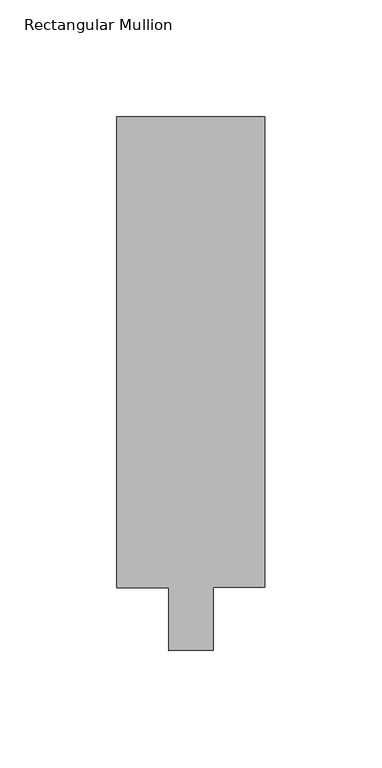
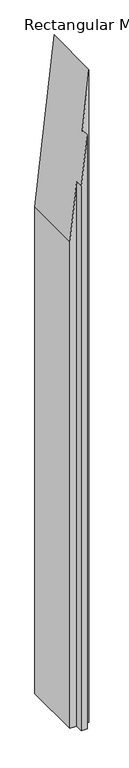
"""IFC4 building model written with IfcOpenShell, lengths in millimetres: member geometry."""

import ifcopenshell
import ifcopenshell.guid

model = None  # the IFC model being written
_history = None  # IfcOwnerHistory: only IFC2X3 demands one
_inside = {}  # id of a spatial element -> (the spatial element, [elements in it])
_under = {}  # id of a project, library or spatial element -> (it, [spatial elements below it])
_declared = {}  # id of a project -> (the project, [libraries it declares])
_typed = {}  # id of a type object -> (the type object, [elements of that type])
_made_of = {}  # id of a material, layer set ... -> (it, [elements and type objects made of it])


def new_model(schema):
    """Start an empty IFC model of exactly this schema.

    Asked for "IFC4X3", IfcOpenShell would pick the latest addendum, in which some entities
    have other attributes; the version numbers below select the first issue.
    IFC2X3 requires an IfcOwnerHistory on every rooted entity: one is made here for all.
    """
    global model, _history
    if schema == "IFC4X3":
        model = ifcopenshell.file(schema_version=(4, 3, 0, 0))
    else:
        model = ifcopenshell.file(schema=schema)
    _inside.clear()
    _under.clear()
    _declared.clear()
    _typed.clear()
    _made_of.clear()
    _history = None
    if model.schema == "IFC2X3":
        org = make("IfcOrganization", Name="unknown")
        user = make(
            "IfcPersonAndOrganization",
            ThePerson=make("IfcPerson", FamilyName="unknown"),
            TheOrganization=org,
        )
        app = make(
            "IfcApplication",
            ApplicationDeveloper=org,
            Version="unknown",
            ApplicationFullName="unknown",
            ApplicationIdentifier="unknown",
        )
        _history = make(
            "IfcOwnerHistory",
            OwningUser=user,
            OwningApplication=app,
            ChangeAction="ADDED",
            CreationDate=0,
        )
    return model


def make(cls, **values):
    """One entity of the class cls with the attributes given. An attribute that is None is left unset."""
    return model.create_entity(
        cls, **{name: value for name, value in values.items() if value is not None}
    )


def rooted(cls, **values):
    """An entity with a GlobalId (a new one), such as an element, a storey or a relation."""
    return make(cls, GlobalId=ifcopenshell.guid.new(), OwnerHistory=_history, **values)


def si_unit(unit_type, name, prefix=None):
    """IfcSIUnit, for example si_unit("LENGTHUNIT", "METRE", prefix="MILLI")."""
    return make("IfcSIUnit", UnitType=unit_type, Prefix=prefix, Name=name)


def assignment(units):
    """IfcUnitAssignment: the units of a project."""
    return None if units is None else make("IfcUnitAssignment", Units=units)


def point(xyz):
    """IfcCartesianPoint."""
    return None if xyz is None else make("IfcCartesianPoint", Coordinates=xyz)


def direction(xyz):
    """IfcDirection."""
    return None if xyz is None else make("IfcDirection", DirectionRatios=xyz)


def frame(location, z_axis=None, x_axis=None):
    """IfcAxis2Placement3D, a coordinate frame: its origin and axes. An axis left out is left unset."""
    return make(
        "IfcAxis2Placement3D",
        Location=point(location),
        Axis=direction(z_axis),
        RefDirection=direction(x_axis),
    )


def origin():
    """The frame at (0, 0, 0) with its axes left unset."""
    return frame((0.0, 0.0, 0.0))


def place(relative_to, where):
    """IfcLocalPlacement: puts the frame where relative to a parent placement (None: the world)."""
    return make(
        "IfcLocalPlacement", PlacementRelTo=relative_to, RelativePlacement=where
    )


def context(
    kind, dimensions, precision=None, world=None, true_north=None, identifier=None
):
    """IfcGeometricRepresentationContext, for example the 3D "Model" context."""
    return make(
        "IfcGeometricRepresentationContext",
        ContextIdentifier=identifier,
        ContextType=kind,
        CoordinateSpaceDimension=dimensions,
        Precision=precision,
        WorldCoordinateSystem=world,
        TrueNorth=true_north,
    )


def project(units=None, contexts=None):
    """IfcProject with its units and contexts."""
    return rooted(
        "IfcProject",
        Name="project",
        RepresentationContexts=contexts,
        UnitsInContext=assignment(units),
    )


def spatial(cls, under=None, at=None, **own):
    """A site, building, storey or space (cls), placed at a placement, below another one or the project."""
    s = rooted(cls, ObjectPlacement=at, **own)
    if under is not None:
        _under.setdefault(under.id(), (under, []))[1].append(s)
    return s


def faces_of(points, faces, orient=None, outer=None):
    """IfcFace entities. A face is a list of loops; a loop is a list of indices into points, from 0.

    orient and outer hold one flag for each loop. By default every Orientation is true, the
    first loop of a face is its IfcFaceOuterBound and the others are IfcFaceBound.
    """
    made = []
    for i, loops in enumerate(faces):
        bounds = []
        for j, loop in enumerate(loops):
            is_outer = j == 0 if outer is None else outer[i][j]
            bounds.append(
                make(
                    "IfcFaceOuterBound" if is_outer else "IfcFaceBound",
                    Bound=make("IfcPolyLoop", Polygon=[points[k] for k in loop]),
                    Orientation=True if orient is None else orient[i][j],
                )
            )
        made.append(make("IfcFace", Bounds=bounds))
    return made


def faceted_brep(points, faces, orient=None, outer=None, voids=None):
    """IfcFacetedBrep: a solid bounded by flat faces; with voids (closed shells), ...WithVoids."""
    shared = [point(p) for p in points]
    hull = make("IfcClosedShell", CfsFaces=faces_of(shared, faces, orient, outer))
    if voids is None:
        return make("IfcFacetedBrep", Outer=hull)
    return make(
        "IfcFacetedBrepWithVoids",
        Outer=hull,
        Voids=[
            make(cls, CfsFaces=faces_of(shared, fs, o, b)) for cls, fs, o, b in voids
        ],
    )


def shape(context_of_items, identifier, shape_type, items):
    """IfcShapeRepresentation: the items that make up one representation, for example the "Body"."""
    return make(
        "IfcShapeRepresentation",
        ContextOfItems=context_of_items,
        RepresentationIdentifier=identifier,
        RepresentationType=shape_type,
        Items=items,
    )


def source(mapping_origin, context_of_items, identifier, shape_type, items):
    """IfcRepresentationMap: a shape defined once, which mapped items show again and again."""
    return make(
        "IfcRepresentationMap",
        MappingOrigin=mapping_origin,
        MappedRepresentation=shape(context_of_items, identifier, shape_type, items),
    )


def transform(
    local_origin,
    x_axis=None,
    y_axis=None,
    z_axis=None,
    scale=None,
    scale2=None,
    scale3=None,
    uniform=True,
):
    """IfcCartesianTransformationOperator3D, or its non-uniform kind. x_axis, y_axis, z_axis: its Axis1, 2, 3."""
    if uniform:
        return make(
            "IfcCartesianTransformationOperator3D",
            Axis1=direction(x_axis),
            Axis2=direction(y_axis),
            LocalOrigin=point(local_origin),
            Scale=scale,
            Axis3=direction(z_axis),
        )
    return make(
        "IfcCartesianTransformationOperator3DnonUniform",
        Axis1=direction(x_axis),
        Axis2=direction(y_axis),
        LocalOrigin=point(local_origin),
        Scale=scale,
        Axis3=direction(z_axis),
        Scale2=scale2,
        Scale3=scale3,
    )


def mapped(mapping_source, mapping_target):
    """IfcMappedItem: shows the shape of a source again, moved by a transform."""
    return make(
        "IfcMappedItem", MappingSource=mapping_source, MappingTarget=mapping_target
    )


def made_of(thing, what):
    """Note that an element or type object is made of a material, layer set ...; save() writes the relation."""
    if what is not None:
        _made_of.setdefault(what.id(), (what, []))[1].append(thing)
    return thing


def element(
    cls,
    number,
    at=None,
    inside=None,
    cuts=None,
    type_object=None,
    material=None,
    context=None,
    identifier="Body",
    shape_type=None,
    held_by="IfcProductDefinitionShape",
    body=None,
    shapes=None,
    **own,
):
    """One element of the class cls, such as IfcWall. Its Tag is "e" and its number.

    at: its placement. inside: the storey or other place that contains it. cuts: it is an
    opening in that element (IfcRelVoidsElement). A single representation is given by context,
    identifier, shape_type and body (its items); several are given by shapes. held_by: the class
    of the entity that holds the representations. save() writes the other relations.
    """
    e = rooted(cls, Tag="e%d" % number, ObjectPlacement=at, **own)
    if body is not None:
        shapes = [shape(context, identifier, shape_type, body)]
    if shapes is not None:
        e.Representation = make(held_by, Representations=shapes)
    if inside is not None:
        _inside.setdefault(inside.id(), (inside, []))[1].append(e)
    if cuts is not None:
        rooted(
            "IfcRelVoidsElement", RelatingBuildingElement=cuts, RelatedOpeningElement=e
        )
    if type_object is not None:
        _typed.setdefault(type_object.id(), (type_object, []))[1].append(e)
    return made_of(e, material)


def aggregate(whole, parts):
    """IfcRelAggregates: a whole, such as a stair, and the parts it consists of."""
    return rooted("IfcRelAggregates", RelatingObject=whole, RelatedObjects=parts)


def save(model, path):
    """Write the relations noted so far, then the file.

    IfcRelAggregates (storeys below a building ...), IfcRelContainedInSpatialStructure (elements
    in a storey), IfcRelDefinesByType, IfcRelAssociatesMaterial and IfcRelDeclares: one each for
    every whole, place, type object, material and project.
    """
    for whole, parts in _under.values():
        aggregate(whole, parts)
    for where, things in _inside.values():
        rooted(
            "IfcRelContainedInSpatialStructure",
            RelatedElements=things,
            RelatingStructure=where,
        )
    for kind, things in _typed.values():
        rooted("IfcRelDefinesByType", RelatedObjects=things, RelatingType=kind)
    for what, things in _made_of.values():
        rooted("IfcRelAssociatesMaterial", RelatedObjects=things, RelatingMaterial=what)
    for by, libraries in _declared.values():
        rooted("IfcRelDeclares", RelatingContext=by, RelatedDefinitions=libraries)
    model.write(path)


def rectangular_mullion_47d3db4b(model_context):
    return source(origin(), model_context, "Body", "Brep", [
        faceted_brep([(-63.5, 228.6, -584.509399), (0.0, 228.6, 0.0), (0.0, 228.6, -2294.1624442), (-63.5, 228.6, -2294.1624442), (-63.5, 26.9875, -584.509399), (-63.5, 26.9875, -2294.1624442), (-41.275, 26.9875, -379.9311094), (-41.275, 26.9875, -2294.1624442), (-41.275, 0.0, -379.9311094), (-41.275, 0.0, -2294.1624442), (-22.225, 0.0, -204.5782897), (-22.225, 0.0, -2294.1624442), (-22.225, 26.9875, -204.5782897), (-22.225, 26.9875, -2294.1624442), (0.0, 26.9875, 0.0), (0.0, 26.9875, -2294.1624442)], [[[0, 1, 2, 3]], [[4, 0, 3, 5]], [[6, 4, 5, 7]], [[8, 6, 7, 9]], [[10, 8, 9, 11]], [[12, 10, 11, 13]], [[14, 12, 13, 15]], [[1, 14, 15, 2]], [[1, 0, 4, 6, 8, 10, 12, 14]], [[2, 15, 13, 11, 9, 7, 5, 3]]]),
    ])


if __name__ == "__main__":
    model = new_model("IFC4")
    model_context = context("Model", 3, world=origin())
    ifc_project = project(units=[si_unit("LENGTHUNIT", "METRE", prefix="MILLI")], contexts=[model_context])
    site = spatial("IfcSite", under=ifc_project)
    building = spatial("IfcBuilding", under=site)
    placement = place(None, origin())
    rectangular_mullion_shape = rectangular_mullion_47d3db4b(model_context)
    element("IfcMember", 1, ObjectType="Rectangular Mullion : 2 1/2\" x 8\" - Capless", at=placement, inside=building, context=model_context, shape_type="MappedRepresentation", body=[
        mapped(rectangular_mullion_shape, transform((0.0, 0.0, 0.0), x_axis=(1.0, 0.0, 0.0), y_axis=(0.0, 1.0, 0.0), z_axis=(0.0, 0.0, 1.0))),
    ])
    save(model, "model.ifc")
